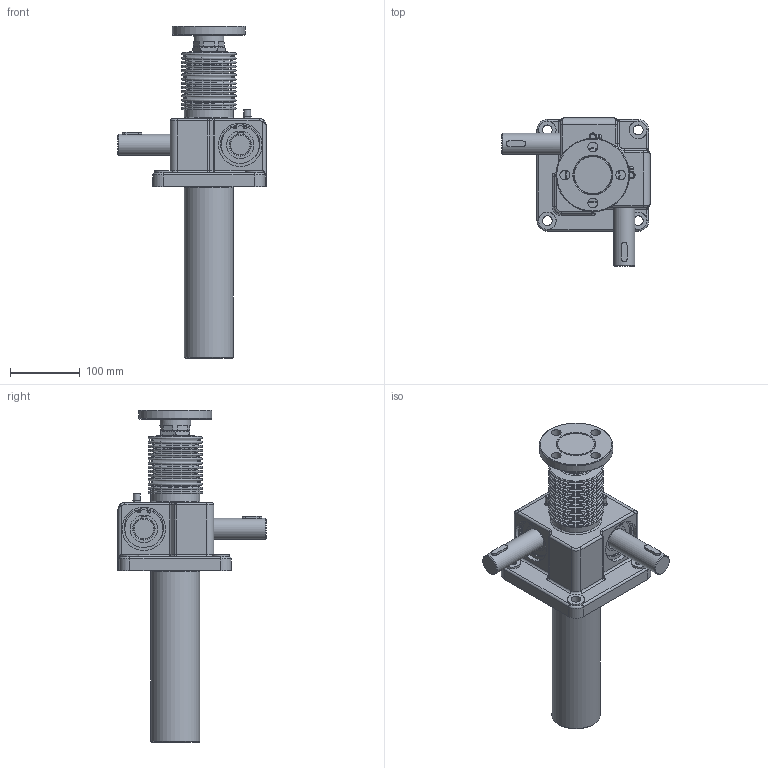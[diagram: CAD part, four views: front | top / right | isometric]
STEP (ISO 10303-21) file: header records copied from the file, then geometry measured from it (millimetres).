
FILE_DESCRIPTION(('STEP AP203'),'1');
FILE_NAME('SP1-5000FCJ-200ST_CAP.stp','2016-08-18T01:50:08',(' '),(' '),'Spatial InterOp 3D',' ',' ');
FILE_SCHEMA(('CONFIG_CONTROL_DESIGN'));
Length unit declared in the file: millimetre
Products named in the file (32): SP1-5000FCJ-200ST_CAP; Rack Gear(SP-5000FC); Flange-Part; Flange; Joint; Nut; Bellow(SP-5000); Body-Part; Nipple; Du Bush; Key; Shaft; #1040; #1057; SnapRing-61Pie; SnapRing-65Pie; Gear Box(NSP-5000); RJ05-4SCJ-610X600-100ST_CAP; LABEL-B.1; ___; 파트18; __; Cap-Part; Cap; Snap Ring; Cover
Assembly tree (31 placements, depth 6):
  SP1-5000FCJ-200ST_CAP
    Rack Gear(SP-5000FC)
    Flange-Part
      Flange
      Joint
      Nut
    Bellow(SP-5000)
    Body-Part
      Nipple
      Nipple
      Du Bush
      Du Bush
      Key
      Key
      Shaft
      Shaft
      #1040
      #1057
      SnapRing-61Pie
      SnapRing-61Pie
      SnapRing-65Pie
      SnapRing-65Pie
      Gear Box(NSP-5000)
      __
        ___
          RJ05-4SCJ-610X600-100ST_CAP
            LABEL-B.1
          파트18
    Cap-Part
      Cap
      Snap Ring
      Cover
Bounding box: 212 x 212.22 x 475 mm (x, y, z)
Volume: 2248562.3 mm3; surface area: 659806.8 mm2
Topology: 37 solids, 37 shells, 2971 faces, 8064 edges, 5212 vertices
Faces by surface type: plane 2388, cylinder 310, cone 119, torus 78, sphere 62, bspline 10, revolution 4
Full cylindrical faces by diameter (mm): 3.42 x4, 3.642 x4, 3.7 x2, 5.6 x2, 8 x2, 9.886 x2, 14 x8, 24 x2, 25 x4, 28 x1, 30 x6, 32 x1, 34 x2, 39.2 x4, 44 x1, 45 x18, 50 x1, 54 x1, 54.4 x4, 55 x5, 58 x2, 60 x3, 61 x2, 62 x4, 62.4 x2, 63 x3, 65 x2, 66 x3, 70 x3, 105 x1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
Entity records: 93736 total; most frequent: CARTESIAN_POINT 18811, ORIENTED_EDGE 15264, DIRECTION 14420, EDGE_CURVE 7632, LINE 6454, VECTOR 6454, VERTEX_POINT 5108, AXIS2_PLACEMENT_3D 3981
